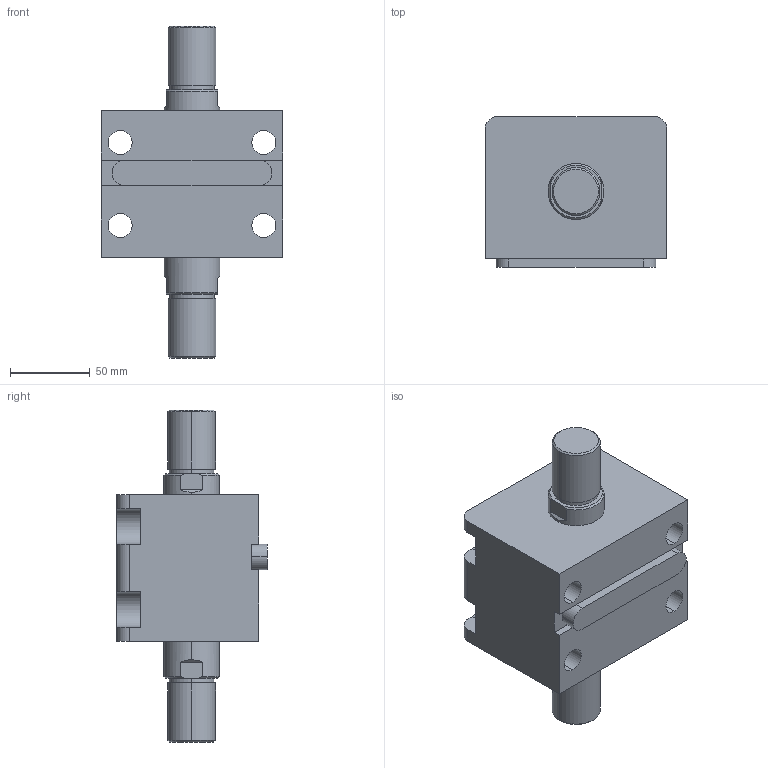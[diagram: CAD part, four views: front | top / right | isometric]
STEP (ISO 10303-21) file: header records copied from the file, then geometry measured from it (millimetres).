
FILE_DESCRIPTION (( 'STEP AP203' ), '1' );
FILE_NAME ('HTB-LW63-10W.STEP', '2019-10-09T08:23:36', ( '微软用户' ), ( '微软中国' ), 'SwSTEP 2.0', 'SolidWorks 2012', '' );
FILE_SCHEMA (( 'CONFIG_CONTROL_DESIGN' ));
Length unit declared in the file: millimetre
Products named in the file (4): HTB-LW63-10W; HTB-LA63-瑩; HTB-LW63-10W活塞杆; HTB-LW63-10掛极
Assembly tree (3 placements, depth 2):
  HTB-LW63-10W
    HTB-LW63-10掛极
    HTB-LW63-10W活塞杆
    HTB-LA63-瑩
Bounding box: 114 x 94.5 x 208 mm (x, y, z)
Volume: 924424.5 mm3; surface area: 123632.2 mm2
Topology: 3 solids, 3 shells, 109 faces, 265 edges, 174 vertices
Faces by surface type: plane 48, cylinder 45, cone 12, torus 4
Entity records: 3679 total; most frequent: CARTESIAN_POINT 610, DIRECTION 593, ORIENTED_EDGE 530, EDGE_CURVE 265, AXIS2_PLACEMENT_3D 229, VERTEX_POINT 174, LINE 135, VECTOR 135
